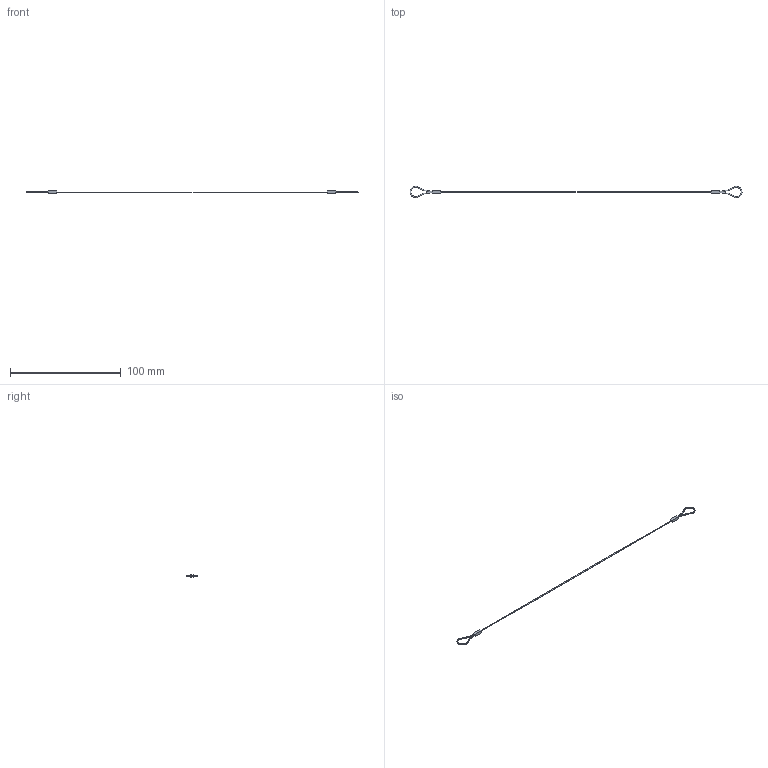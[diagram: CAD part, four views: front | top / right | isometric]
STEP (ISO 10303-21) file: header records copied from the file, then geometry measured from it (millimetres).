
FILE_DESCRIPTION (( 'STEP AP203' ), '1' );
FILE_NAME ('EB-935-8.STEP', '2013-08-12T06:33:07', ( 'SDS' ), ( 'SDS' ), 'SwSTEP 2.0', 'SolidWorks 2002296', '' );
FILE_SCHEMA (( 'CONFIG_CONTROL_DESIGN' ));
Length unit declared in the file: millimetre
Products named in the file (1): EB-935-8
Bounding box: 300 x 10.12 x 2.5 mm (x, y, z)
Surface area: 1032.3 mm2 (no closed solid volume)
Topology: 0 solids, 25 shells, 30 faces, 123 edges, 117 vertices
Faces by surface type: bspline 16, plane 11, cylinder 3
Entity records: 1990 total; most frequent: CARTESIAN_POINT 959, DIRECTION 203, ORIENTED_EDGE 128, EDGE_CURVE 123, VERTEX_POINT 117, AXIS2_PLACEMENT_3D 77, CIRCLE 62, LINE 49
